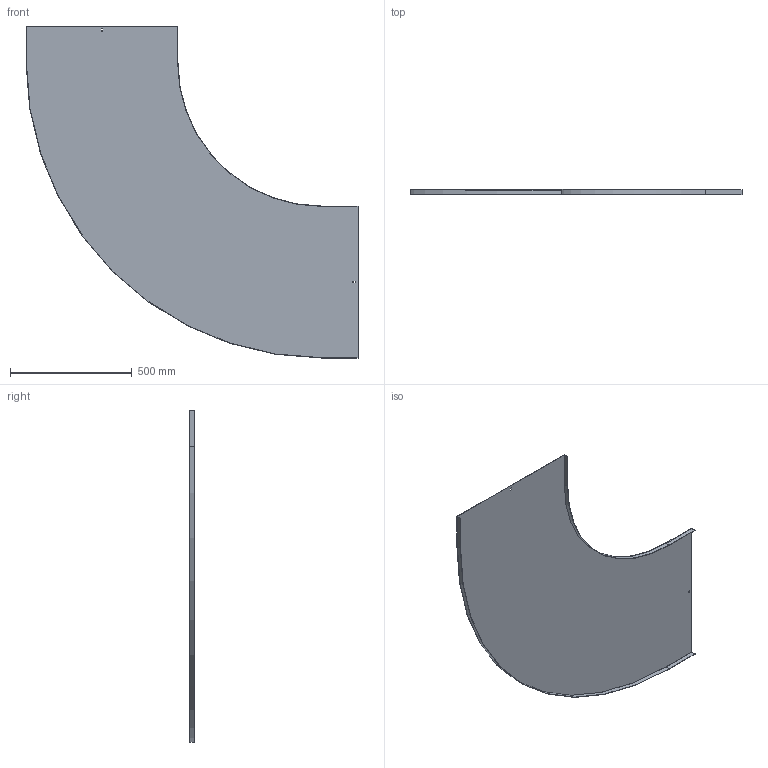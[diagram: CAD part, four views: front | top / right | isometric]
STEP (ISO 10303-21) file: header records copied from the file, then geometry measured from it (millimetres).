
FILE_DESCRIPTION (( 'STEP AP214' ), '1' );
FILE_NAME ('10N6P600.step', '2025-02-21T13:37:19', ( '' ), ( '' ), 'SwSTEP 2.0', 'SolidWorks 2023', '' );
FILE_SCHEMA (( 'AUTOMOTIVE_DESIGN' ));
Length unit declared in the file: millimetre
Products named in the file (1): 10N6P600
Bounding box: 1361.5 x 20 x 1361.5 mm (x, y, z)
Volume: 1696404 mm3; surface area: 2269086.2 mm2
Topology: 1 solids, 1 shells, 26 faces, 72 edges, 48 vertices
Faces by surface type: plane 22, cylinder 4
Entity records: 855 total; most frequent: CARTESIAN_POINT 147, ORIENTED_EDGE 144, DIRECTION 134, EDGE_CURVE 72, LINE 64, VECTOR 64, VERTEX_POINT 48, AXIS2_PLACEMENT_3D 35
